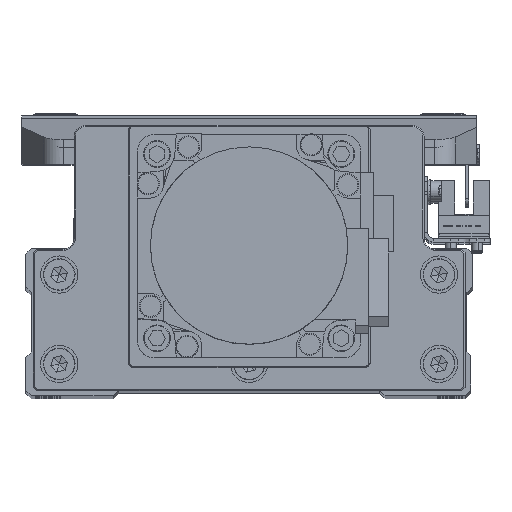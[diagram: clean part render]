
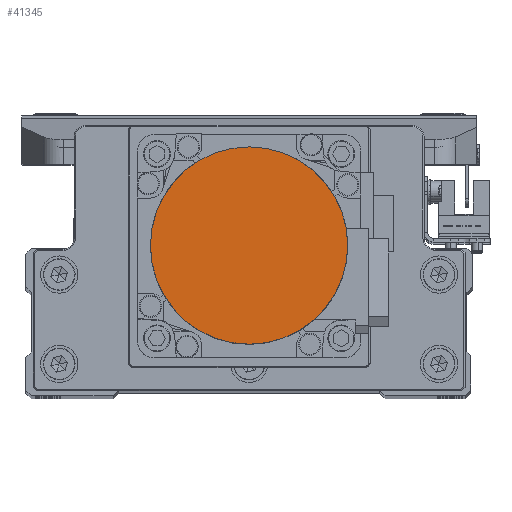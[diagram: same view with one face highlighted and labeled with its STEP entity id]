
A CAD part, top view. The second image highlights one B-rep face of the part: STEP entity #41345.
In plain terms, the highlighted planar face has unit normal (0, 0, 1) as drawn and (0, 0, -1) by its records, which use the part's own axes.
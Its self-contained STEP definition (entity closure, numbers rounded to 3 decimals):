
#249 = EDGE_CURVE ( 'NONE', #2125, #3398, #38359, .T. ) ;
#2075 = ORIENTED_EDGE ( 'NONE', *, *, #18283, .F. ) ;
#2125 = VERTEX_POINT ( 'NONE', #2338 ) ;
#2338 = CARTESIAN_POINT ( 'NONE',  ( 26.5, 0., -109.7 ) ) ;
#3398 = VERTEX_POINT ( 'NONE', #29158 ) ;
#5580 = DIRECTION ( 'NONE',  ( 0., 0., 1. ) ) ;
#10160 = CARTESIAN_POINT ( 'NONE',  ( 0., 0., -109.7 ) ) ;
#10684 = AXIS2_PLACEMENT_3D ( 'NONE', #41234, #11931, #24951 ) ;
#11931 = DIRECTION ( 'NONE',  ( 0., 0., 1. ) ) ;
#15130 = FACE_OUTER_BOUND ( 'NONE', #15614, .T. ) ;
#15136 = AXIS2_PLACEMENT_3D ( 'NONE', #34850, #5580, #18591 ) ;
#15614 = EDGE_LOOP ( 'NONE', ( #2075, #28107 ) ) ;
#18283 = EDGE_CURVE ( 'NONE', #3398, #2125, #41673, .T. ) ;
#18591 = DIRECTION ( 'NONE',  ( 1., 0., 0. ) ) ;
#23176 = DIRECTION ( 'NONE',  ( 0., 0., 1. ) ) ;
#23197 = AXIS2_PLACEMENT_3D ( 'NONE', #10160, #23176, #36245 ) ;
#24951 = DIRECTION ( 'NONE',  ( 1., 0., 0. ) ) ;
#28107 = ORIENTED_EDGE ( 'NONE', *, *, #249, .F. ) ;
#28161 = PLANE ( 'NONE',  #10684 ) ;
#29158 = CARTESIAN_POINT ( 'NONE',  ( -26.5, 0., -109.7 ) ) ;
#34850 = CARTESIAN_POINT ( 'NONE',  ( 0., 0., -109.7 ) ) ;
#36245 = DIRECTION ( 'NONE',  ( -1., 0., 0. ) ) ;
#38359 = CIRCLE ( 'NONE', #15136, 26.5 ) ;
#41234 = CARTESIAN_POINT ( 'NONE',  ( 0., 0., -109.7 ) ) ;
#41345 = ADVANCED_FACE ( 'NONE', ( #15130 ), #28161, .F. ) ;
#41673 = CIRCLE ( 'NONE', #23197, 26.5 ) ;
